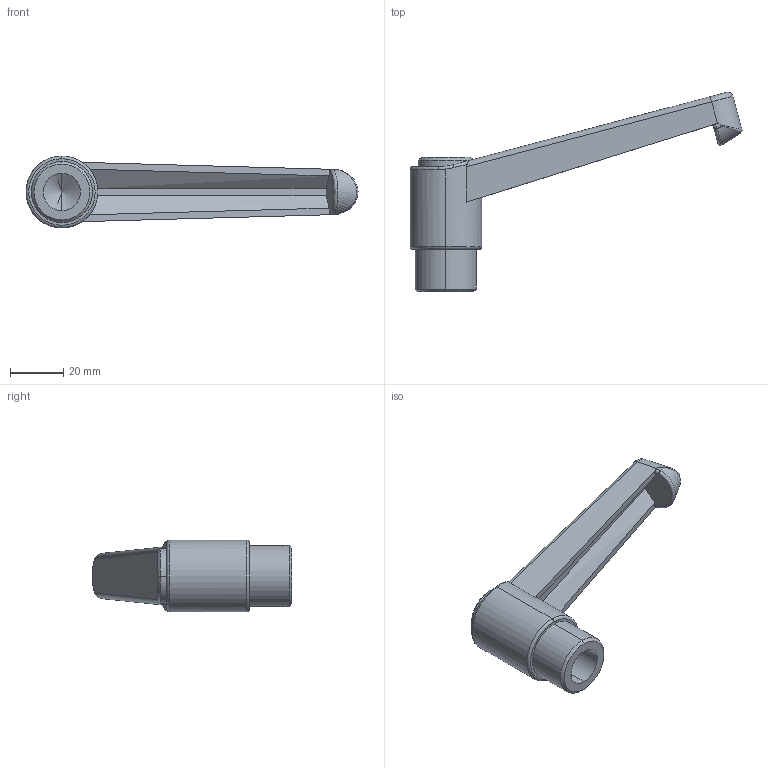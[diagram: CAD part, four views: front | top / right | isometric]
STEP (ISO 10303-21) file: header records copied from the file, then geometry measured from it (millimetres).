
FILE_DESCRIPTION (( 'STEP AP203' ), '1' );
FILE_NAME ('A-403-108-M16.STEP', '2015-11-21T17:55:32', ( '' ), ( '' ), 'SwSTEP 2.0', 'SolidWorks 2014', '' );
FILE_SCHEMA (( 'CONFIG_CONTROL_DESIGN' ));
Length unit declared in the file: millimetre
Products named in the file (1): A-403-108-M16
Bounding box: 124.91 x 75.05 x 27 mm (x, y, z)
Volume: 42219.3 mm3; surface area: 13571.3 mm2
Topology: 1 solids, 1 shells, 58 faces, 139 edges, 84 vertices
Faces by surface type: cylinder 16, plane 16, bspline 13, cone 6, torus 4, sphere 3
Entity records: 2428 total; most frequent: CARTESIAN_POINT 1133, ORIENTED_EDGE 274, DIRECTION 231, EDGE_CURVE 137, AXIS2_PLACEMENT_3D 96, VERTEX_POINT 84, EDGE_LOOP 61, ADVANCED_FACE 58
